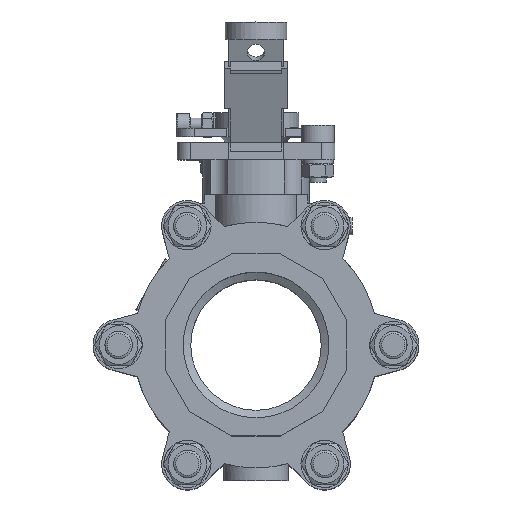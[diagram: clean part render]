
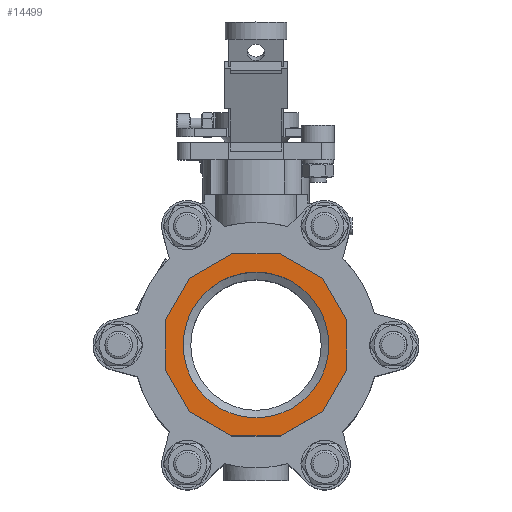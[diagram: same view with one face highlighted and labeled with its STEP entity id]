
A CAD part, top view. The second image highlights one B-rep face of the part: STEP entity #14499.
In plain terms, the highlighted planar face has unit normal (0, 0, 1).
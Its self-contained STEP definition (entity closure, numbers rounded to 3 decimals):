
#465=FACE_BOUND('',#2361,.T.);
#707=PLANE('',#15472);
#1536=FACE_OUTER_BOUND('',#2360,.T.);
#2360=EDGE_LOOP('',(#11044,#11045,#11046,#11047,#11048,#11049,#11050,#11051,
#11052,#11053,#11054,#11055));
#2361=EDGE_LOOP('',(#11056,#11057));
#3192=CIRCLE('',#15458,42.463);
#3193=CIRCLE('',#15459,42.463);
#4094=LINE('',#22584,#5304);
#4097=LINE('',#22590,#5307);
#4100=LINE('',#22596,#5310);
#4103=LINE('',#22602,#5313);
#4106=LINE('',#22608,#5316);
#4109=LINE('',#22614,#5319);
#4112=LINE('',#22620,#5322);
#4115=LINE('',#22626,#5325);
#4118=LINE('',#22632,#5328);
#4121=LINE('',#22638,#5331);
#4124=LINE('',#22644,#5334);
#4127=LINE('',#22648,#5337);
#5304=VECTOR('',#17739,10.);
#5307=VECTOR('',#17744,10.);
#5310=VECTOR('',#17749,10.);
#5313=VECTOR('',#17754,10.);
#5316=VECTOR('',#17759,10.);
#5319=VECTOR('',#17764,10.);
#5322=VECTOR('',#17769,10.);
#5325=VECTOR('',#17774,10.);
#5328=VECTOR('',#17779,10.);
#5331=VECTOR('',#17784,10.);
#5334=VECTOR('',#17789,10.);
#5337=VECTOR('',#17794,10.);
#6603=VERTEX_POINT('',#22572);
#6604=VERTEX_POINT('',#22574);
#6607=VERTEX_POINT('',#22581);
#6608=VERTEX_POINT('',#22583);
#6610=VERTEX_POINT('',#22589);
#6612=VERTEX_POINT('',#22595);
#6614=VERTEX_POINT('',#22601);
#6616=VERTEX_POINT('',#22607);
#6618=VERTEX_POINT('',#22613);
#6620=VERTEX_POINT('',#22619);
#6622=VERTEX_POINT('',#22625);
#6624=VERTEX_POINT('',#22631);
#6626=VERTEX_POINT('',#22637);
#6628=VERTEX_POINT('',#22643);
#8240=EDGE_CURVE('',#6604,#6603,#3192,.T.);
#8241=EDGE_CURVE('',#6603,#6604,#3193,.T.);
#8244=EDGE_CURVE('',#6608,#6607,#4094,.T.);
#8247=EDGE_CURVE('',#6610,#6608,#4097,.T.);
#8250=EDGE_CURVE('',#6612,#6610,#4100,.T.);
#8253=EDGE_CURVE('',#6614,#6612,#4103,.T.);
#8256=EDGE_CURVE('',#6616,#6614,#4106,.T.);
#8259=EDGE_CURVE('',#6618,#6616,#4109,.T.);
#8262=EDGE_CURVE('',#6620,#6618,#4112,.T.);
#8265=EDGE_CURVE('',#6622,#6620,#4115,.T.);
#8268=EDGE_CURVE('',#6624,#6622,#4118,.T.);
#8271=EDGE_CURVE('',#6626,#6624,#4121,.T.);
#8274=EDGE_CURVE('',#6628,#6626,#4124,.T.);
#8277=EDGE_CURVE('',#6607,#6628,#4127,.T.);
#11044=ORIENTED_EDGE('',*,*,#8277,.T.);
#11045=ORIENTED_EDGE('',*,*,#8274,.T.);
#11046=ORIENTED_EDGE('',*,*,#8271,.T.);
#11047=ORIENTED_EDGE('',*,*,#8268,.T.);
#11048=ORIENTED_EDGE('',*,*,#8265,.T.);
#11049=ORIENTED_EDGE('',*,*,#8262,.T.);
#11050=ORIENTED_EDGE('',*,*,#8259,.T.);
#11051=ORIENTED_EDGE('',*,*,#8256,.T.);
#11052=ORIENTED_EDGE('',*,*,#8253,.T.);
#11053=ORIENTED_EDGE('',*,*,#8250,.T.);
#11054=ORIENTED_EDGE('',*,*,#8247,.T.);
#11055=ORIENTED_EDGE('',*,*,#8244,.T.);
#11056=ORIENTED_EDGE('',*,*,#8240,.T.);
#11057=ORIENTED_EDGE('',*,*,#8241,.T.);
#14499=ADVANCED_FACE('',(#1536,#465),#707,.T.);
#15458=AXIS2_PLACEMENT_3D('',#22575,#17731,#17732);
#15459=AXIS2_PLACEMENT_3D('',#22576,#17733,#17734);
#15472=AXIS2_PLACEMENT_3D('',#22649,#17795,#17796);
#17731=DIRECTION('center_axis',(0.,0.,
-1.));
#17732=DIRECTION('ref_axis',(0.866,-0.5,0.));
#17733=DIRECTION('center_axis',(0.,0.,
-1.));
#17734=DIRECTION('ref_axis',(0.866,-0.5,0.));
#17739=DIRECTION('',(-1.,0.,0.));
#17744=DIRECTION('',(-0.866,0.5,0.));
#17749=DIRECTION('',(-0.5,0.866,0.));
#17754=DIRECTION('',(0.,1.,0.));
#17759=DIRECTION('',(0.5,0.866,0.));
#17764=DIRECTION('',(0.866,0.5,0.));
#17769=DIRECTION('',(1.,0.,0.));
#17774=DIRECTION('',(0.866,-0.5,0.));
#17779=DIRECTION('',(0.5,-0.866,0.));
#17784=DIRECTION('',(0.,-1.,0.));
#17789=DIRECTION('',(-0.5,-0.866,0.));
#17794=DIRECTION('',(-0.866,-0.5,0.));
#17795=DIRECTION('center_axis',(0.,0.,
1.));
#17796=DIRECTION('ref_axis',(0.866,-0.5,0.));
#22572=CARTESIAN_POINT('',(-64.562,26.388,102.5));
#22574=CARTESIAN_POINT('',(8.986,-16.075,102.5));
#22575=CARTESIAN_POINT('Origin',(-27.788,5.156,102.5));
#22576=CARTESIAN_POINT('Origin',(-27.788,5.156,102.5));
#22581=CARTESIAN_POINT('',(-41.989,58.156,102.5));
#22583=CARTESIAN_POINT('',(-13.586,58.156,102.5));
#22584=CARTESIAN_POINT('',(-41.989,58.156,102.5));
#22589=CARTESIAN_POINT('',(11.011,43.955,102.5));
#22590=CARTESIAN_POINT('',(-13.586,58.156,102.5));
#22595=CARTESIAN_POINT('',(25.212,19.358,102.5));
#22596=CARTESIAN_POINT('',(11.011,43.955,102.5));
#22601=CARTESIAN_POINT('',(25.212,-9.045,102.5));
#22602=CARTESIAN_POINT('',(25.212,19.358,102.5));
#22607=CARTESIAN_POINT('',(11.011,-33.642,102.5));
#22608=CARTESIAN_POINT('',(25.212,-9.045,102.5));
#22613=CARTESIAN_POINT('',(-13.586,-47.844,102.5));
#22614=CARTESIAN_POINT('',(11.011,-33.642,102.5));
#22619=CARTESIAN_POINT('',(-41.989,-47.844,102.5));
#22620=CARTESIAN_POINT('',(-13.586,-47.844,102.5));
#22625=CARTESIAN_POINT('',(-66.586,-33.642,102.5));
#22626=CARTESIAN_POINT('',(-41.989,-47.844,102.5));
#22631=CARTESIAN_POINT('',(-80.788,-9.045,102.5));
#22632=CARTESIAN_POINT('',(-66.586,-33.642,102.5));
#22637=CARTESIAN_POINT('',(-80.788,19.358,102.5));
#22638=CARTESIAN_POINT('',(-80.788,-9.045,102.5));
#22643=CARTESIAN_POINT('',(-66.586,43.955,102.5));
#22644=CARTESIAN_POINT('',(-80.788,19.358,102.5));
#22648=CARTESIAN_POINT('',(-66.586,43.955,102.5));
#22649=CARTESIAN_POINT('Origin',(-27.788,5.156,102.5));
